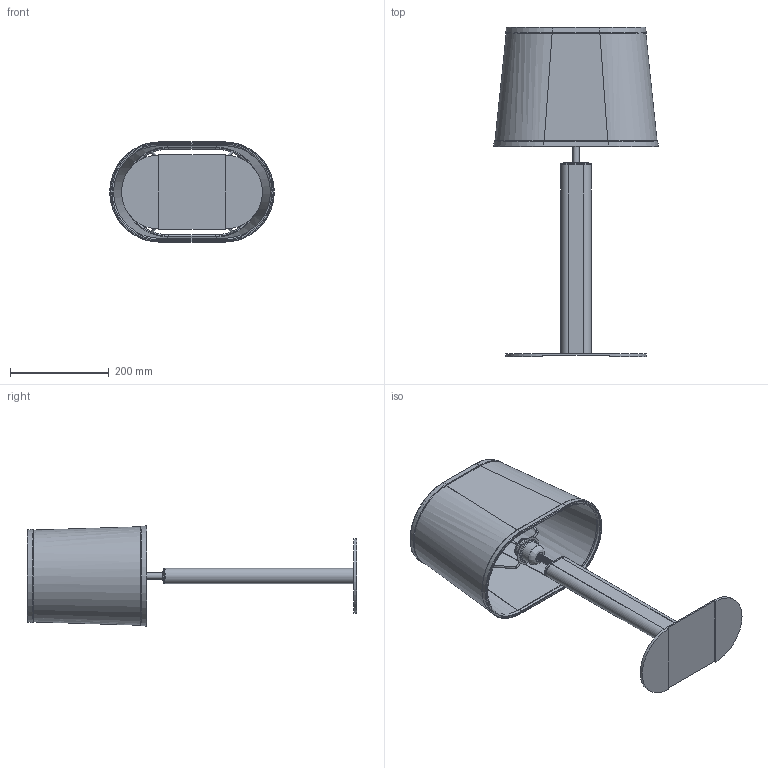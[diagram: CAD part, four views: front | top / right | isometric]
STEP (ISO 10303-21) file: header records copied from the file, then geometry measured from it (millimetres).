
FILE_DESCRIPTION( ( 'STEP AP203' ), '1' );
FILE_NAME( '//srvbf/BF Disegni/EVITA/EVITA-L Lumetto 3D.stp', '2020-10-16T15:30:43', ( ' ' ), ( ' ' ), 'XStep 1.0', ' ', ' ' );
FILE_SCHEMA( ( 'CONFIG_CONTROL_DESIGN) ( )' ) );
Length unit declared in the file: metre
Products named in the file (5): Assem1; 1; 2; 3; 4
Bounding box: 332.99 x 666.6 x 202.99 mm (x, y, z)
Volume: 2194395.3 mm3; surface area: 1500863.4 mm2
Topology: 8 solids, 22 shells, 918 faces, 1986 edges, 1134 vertices
Faces by surface type: cylinder 294, cone 276, plane 214, torus 114, bspline 12, sphere 8
Full cylindrical faces by diameter (mm): 4 x16, 7 x2, 9 x136, 10 x4, 11 x2, 13 x2, 34.547 x2, 38.547 x2, 40 x2, 41 x2, 42 x2, 45.517 x2, 50 x2, 60 x2
Entity records: 12014 total; most frequent: CARTESIAN_POINT 2798, DIRECTION 2034, ORIENTED_EDGE 1424, AXIS2_PLACEMENT_3D 900, EDGE_LOOP 746, EDGE_CURVE 712, FACE_OUTER_BOUND 587, VERTEX_POINT 552
